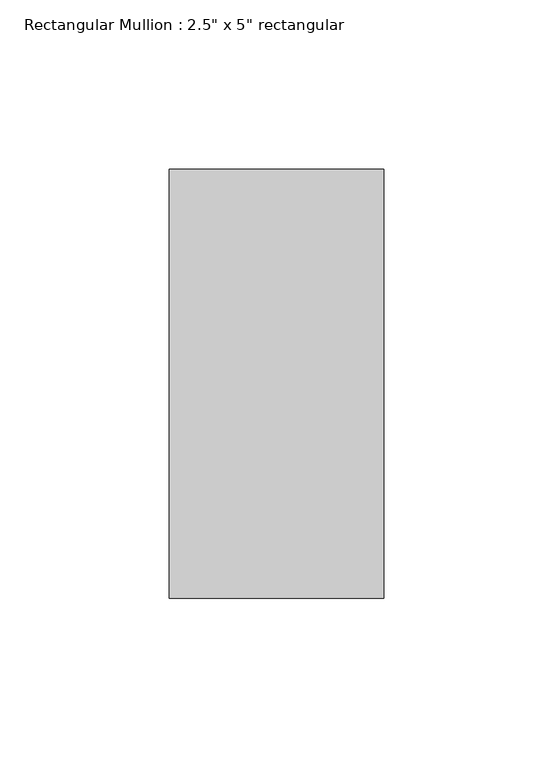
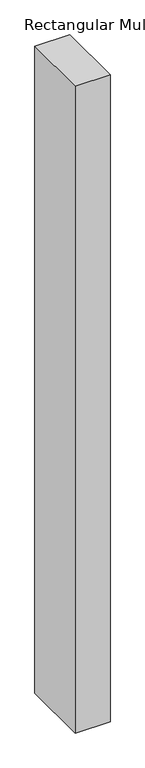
"""IFC4 building model written with IfcOpenShell, lengths in millimetres: member geometry."""

from ifc_helpers import new_model, si_unit, frame, origin, place, context, project, spatial, polyline, outline, extrude, source, transform, mapped, element, save


def member_a1da5be3(model_context):
    return source(origin(), model_context, "Body", "SweptSolid", [
        extrude(outline(polyline([(31.75, 63.5), (31.75, -63.5), (-31.75, -63.5), (-31.75, 63.5), (31.75, 63.5)])), frame((0.0, 0.0, -1244.6), z_axis=(0.0, 0.0, 1.0), x_axis=(1.0, 0.0, 0.0)), (0.0, 0.0, 1.0), 1244.6),
    ])


if __name__ == "__main__":
    model = new_model("IFC4")
    model_context = context("Model", 3, world=origin())
    ifc_project = project(units=[si_unit("LENGTHUNIT", "METRE", prefix="MILLI")], contexts=[model_context])
    site = spatial("IfcSite", under=ifc_project)
    building = spatial("IfcBuilding", under=site)
    placement = place(None, origin())
    member_shape = member_a1da5be3(model_context)
    element("IfcMember", 1, ObjectType="Rectangular Mullion : 2.5\" x 5\" rectangular", at=placement, inside=building, context=model_context, shape_type="MappedRepresentation", body=[
        mapped(member_shape, transform((0.0, 0.0, 0.0), x_axis=(1.0, 0.0, 0.0), y_axis=(0.0, 1.0, 0.0), z_axis=(0.0, 0.0, 1.0))),
    ])
    save(model, "model.ifc")
